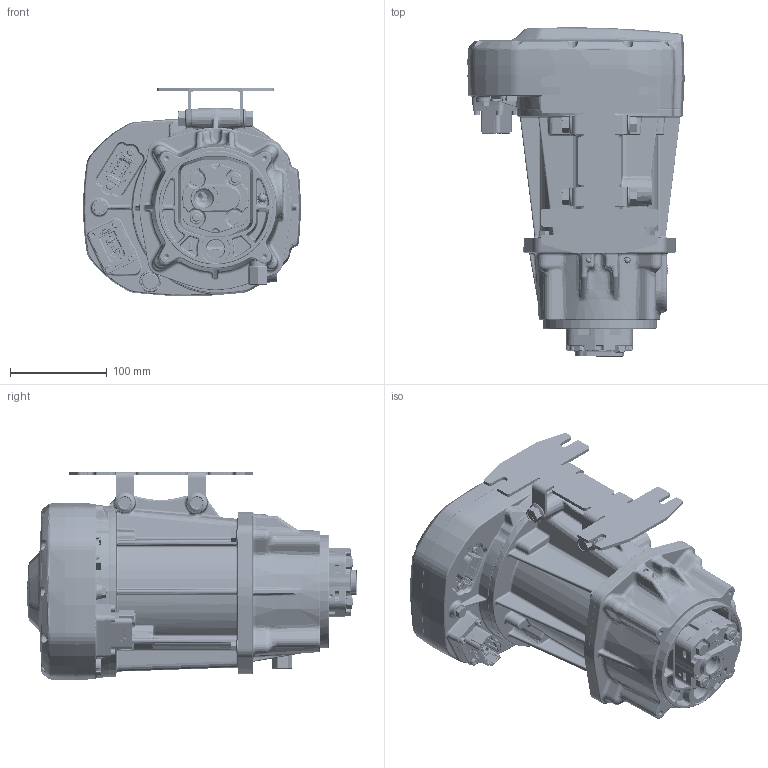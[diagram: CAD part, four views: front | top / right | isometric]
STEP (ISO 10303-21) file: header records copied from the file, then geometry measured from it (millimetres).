
FILE_DESCRIPTION (( 'STEP AP214' ), '1' );
FILE_NAME ('EHSU-1-75-350-U-4HOL.STEP', '2023-09-06T16:13:03', ( '' ), ( '' ), 'SwSTEP 2.0', 'SolidWorks 2019', '' );
FILE_SCHEMA (( 'AUTOMOTIVE_DESIGN' ));
Length unit declared in the file: inch
Products named in the file (72): ISS1_02_L_5; 500-00440_9452K171; 900-00086_EHSU-1; 500-10357; FI-C3-A1-15000; 016-00018_EHSU-1; 500-00426; cableNew_AssemblyConfig; 500-00416_Circular Profile; 016-00017; 500-00686; 500-00258_60355K704; 500-00476; 016-00186; 500-00421_Threaded; 500-00465; 016-00014_AssemblyConfig; 500-10202; 500-00464_Threaded; 500-00489_24675K83; 500-00689; ISS1_02_L_3; FI-W17S; 600-00078; 500-00457_Threaded; 200-00107_200-00015; 500-10480; 500-00429_Threaded; 500-00271_98409A221; 500-00423; 500-00433_Threaded; 500-00437_Threaded; 500-00427_92196A540; 016-00188; 500-00687; 500-00606_91247A596; 500-00262; 500-00039_91306A341; 500-10508; 500-00432_90128A215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
Assembly tree (102 placements, depth 6):
  FI-C3-A1-15000
  500-00686
  500-00258_60355K704
  500-00689
  FI-W17S
Bounding box: 225.54 x 341.14 x 215.53 mm (x, y, z)
Volume: 2377617.4 mm3; surface area: 997281.7 mm2
Topology: 113 solids, 156 shells, 20876 faces, 53526 edges, 32863 vertices
Faces by surface type: cylinder 6191, plane 6056, bspline 3736, cone 2553, torus 1949, sphere 391
Entity records: 756268 total; most frequent: CARTESIAN_POINT 356889, ORIENTED_EDGE 86526, DIRECTION 59042, EDGE_CURVE 43295, VERTEX_POINT 26665, AXIS2_PLACEMENT_3D 23759, B_SPLINE_CURVE_WITH_KNOTS 19673, EDGE_LOOP 18010
